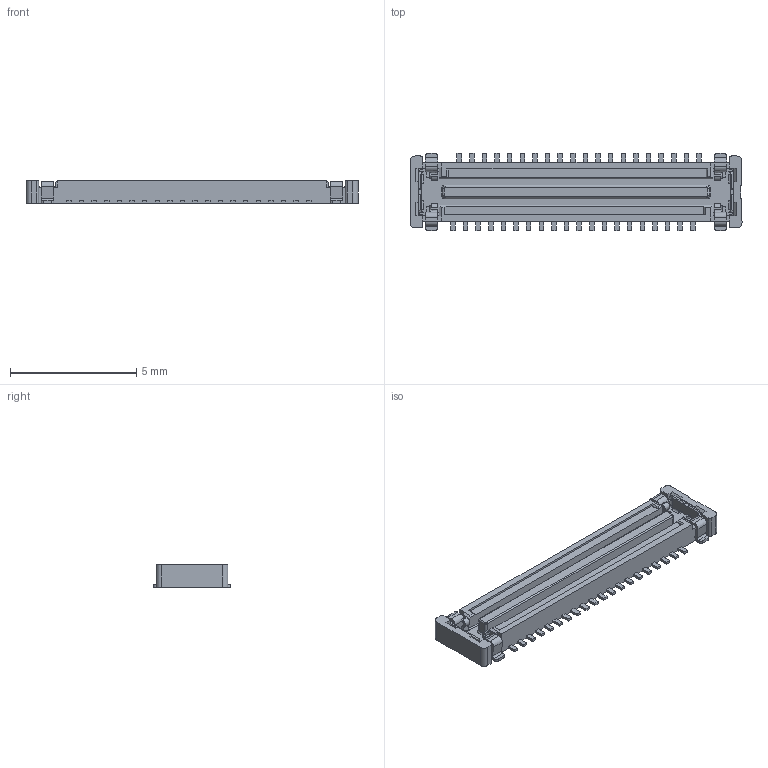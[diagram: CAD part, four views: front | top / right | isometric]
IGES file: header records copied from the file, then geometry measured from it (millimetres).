
Start section: Elysium IGES Interface
Global section: file name: C:\Users\1088\Desktop\XSLS00-xx\XSLS00-40_IG.igs; native system: Creo Elements/Direct Modeling 19.0F  14-Feb-2017; preprocessor: Creo Element/Direct IGES_3D V2.2; author: Unknown; organization: Unknown; date: 20170807.110857; units: millimetre
Bounding box: 13.15 x 3.05 x 0.88 mm (x, y, z)
Volume: 21.2 mm3; surface area: 143.8 mm2
Topology: 1 solids, 3 shells, 573 faces, 1674 edges, 1088 vertices
Faces by surface type: bspline 573
